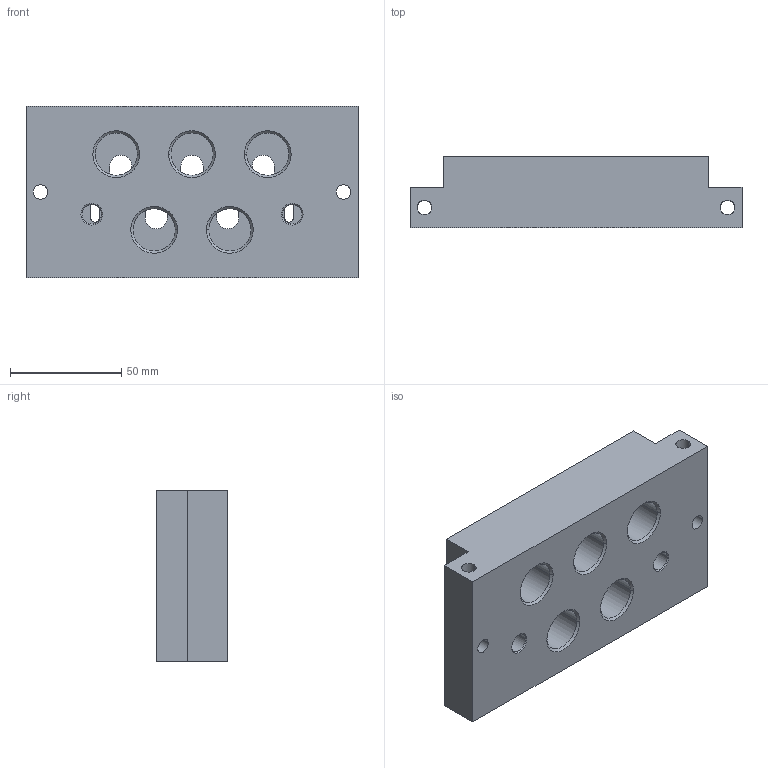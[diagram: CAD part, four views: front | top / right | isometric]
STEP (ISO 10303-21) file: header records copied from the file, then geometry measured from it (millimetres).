
FILE_DESCRIPTION((''),'2;1');
FILE_NAME('1825503203','2015-07-31T',('vol1hc'),(''),'PRO/ENGINEER BY PARAMETRIC TECHNOLOGY CORPORATION, 2012421','PRO/ENGINEER BY PARAMETRIC TECHNOLOGY CORPORATION, 2012421','');
FILE_SCHEMA(('CONFIG_CONTROL_DESIGN','SHAPE_APPEARANCE_LAYERS_GROUPS'));
Length unit declared in the file: millimetre
Products named in the file (1): 1825503203
Bounding box: 149 x 32 x 77 mm (x, y, z)
Volume: 277975.7 mm3; surface area: 52669.3 mm2
Topology: 1 solids, 1 shells, 116 faces, 286 edges, 172 vertices
Faces by surface type: cylinder 52, plane 42, cone 22
Entity records: 3897 total; most frequent: CARTESIAN_POINT 970, DIRECTION 634, ORIENTED_EDGE 572, EDGE_CURVE 286, AXIS2_PLACEMENT_3D 240, VERTEX_POINT 172, VECTOR 154, LINE 154
